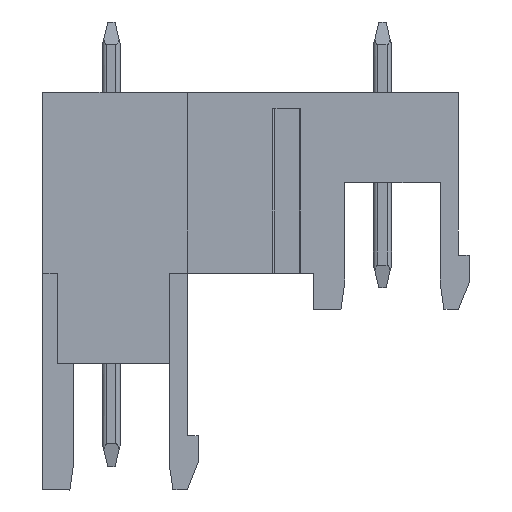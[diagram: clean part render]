
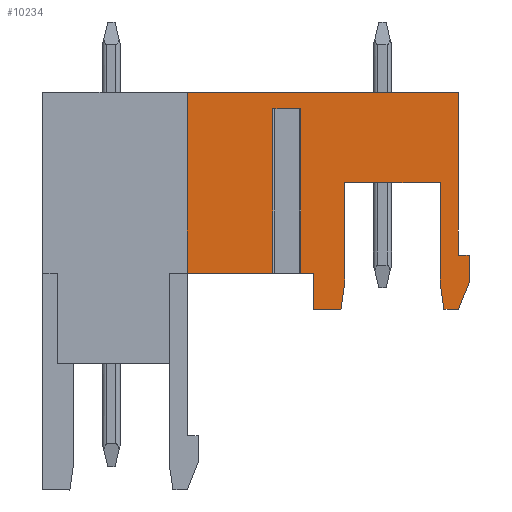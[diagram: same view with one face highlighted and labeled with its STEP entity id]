
A CAD part, front view. The second image highlights one B-rep face of the part: STEP entity #10234.
In plain terms, the highlighted planar face has unit normal (0, -1, 0).
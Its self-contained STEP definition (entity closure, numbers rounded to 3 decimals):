
#137=DIRECTION('',(1.,0.,0.));
#138=VECTOR('',#137,4.736);
#139=CARTESIAN_POINT('',(8.,5.,-10.));
#140=LINE('',#139,#138);
#179=DIRECTION('',(1.,0.,0.));
#180=VECTOR('',#179,0.736);
#181=CARTESIAN_POINT('',(14.264,5.,-10.));
#182=LINE('',#181,#180);
#971=DIRECTION('',(-1.,0.,0.));
#972=VECTOR('',#971,15.);
#973=CARTESIAN_POINT('',(23.,5.,0.));
#974=LINE('',#973,#972);
#2027=DIRECTION('',(0.,0.,-1.));
#2028=VECTOR('',#2027,2.);
#2029=CARTESIAN_POINT('',(15.,5.,-10.));
#2030=LINE('',#2029,#2028);
#2320=DIRECTION('',(1.,0.,0.));
#2321=VECTOR('',#2320,1.5);
#2322=CARTESIAN_POINT('',(15.,5.,-12.));
#2323=LINE('',#2322,#2321);
#2347=DIRECTION('',(-1.,0.,0.));
#2348=VECTOR('',#2347,5.3);
#2349=CARTESIAN_POINT('',(22.,5.,-5.));
#2350=LINE('',#2349,#2348);
#2351=DIRECTION('',(0.,0.,-1.));
#2352=VECTOR('',#2351,5.6);
#2353=CARTESIAN_POINT('',(16.7,5.,-5.));
#2354=LINE('',#2353,#2352);
#2355=DIRECTION('',(-0.141,0.,-0.99));
#2356=VECTOR('',#2355,1.414);
#2357=CARTESIAN_POINT('',(16.7,5.,-10.6));
#2358=LINE('',#2357,#2356);
#2359=DIRECTION('',(-1.,0.,0.));
#2360=VECTOR('',#2359,1.527);
#2361=CARTESIAN_POINT('',(14.264,5.,-0.9));
#2362=LINE('',#2361,#2360);
#2363=DIRECTION('',(-0.371,0.,-0.928));
#2364=VECTOR('',#2363,1.616);
#2365=CARTESIAN_POINT('',(23.6,5.,-10.5));
#2366=LINE('',#2365,#2364);
#2367=DIRECTION('',(-0.141,0.,0.99));
#2368=VECTOR('',#2367,1.414);
#2369=CARTESIAN_POINT('',(22.2,5.,-12.));
#2370=LINE('',#2369,#2368);
#2375=DIRECTION('',(0.,0.,-1.));
#2376=VECTOR('',#2375,5.6);
#2377=CARTESIAN_POINT('',(22.,5.,-5.));
#2378=LINE('',#2377,#2376);
#2435=DIRECTION('',(1.,0.,0.));
#2436=VECTOR('',#2435,0.8);
#2437=CARTESIAN_POINT('',(22.2,5.,-12.));
#2438=LINE('',#2437,#2436);
#2467=DIRECTION('',(0.,0.,1.));
#2468=VECTOR('',#2467,1.5);
#2469=CARTESIAN_POINT('',(23.6,5.,-10.5));
#2470=LINE('',#2469,#2468);
#2483=DIRECTION('',(-1.,0.,0.));
#2484=VECTOR('',#2483,0.6);
#2485=CARTESIAN_POINT('',(23.6,5.,-9.));
#2486=LINE('',#2485,#2484);
#2491=DIRECTION('',(0.,0.,1.));
#2492=VECTOR('',#2491,9.);
#2493=CARTESIAN_POINT('',(23.,5.,-9.));
#2494=LINE('',#2493,#2492);
#2721=DIRECTION('',(0.,0.,-1.));
#2722=VECTOR('',#2721,9.1);
#2723=CARTESIAN_POINT('',(14.264,5.,-0.9));
#2724=LINE('',#2723,#2722);
#2749=DIRECTION('',(0.,0.,1.));
#2750=VECTOR('',#2749,9.1);
#2751=CARTESIAN_POINT('',(12.736,5.,-10.));
#2752=LINE('',#2751,#2750);
#2799=DIRECTION('',(0.,0.,-1.));
#2800=VECTOR('',#2799,10.);
#2801=CARTESIAN_POINT('',(8.,5.,0.));
#2802=LINE('',#2801,#2800);
#5507=CARTESIAN_POINT('',(12.736,5.,-10.));
#5509=VERTEX_POINT('',#5507);
#5525=CARTESIAN_POINT('',(14.264,5.,-10.));
#5526=VERTEX_POINT('',#5525);
#5527=CARTESIAN_POINT('',(15.,5.,-10.));
#5528=VERTEX_POINT('',#5527);
#5540=CARTESIAN_POINT('',(8.,5.,-10.));
#5542=VERTEX_POINT('',#5540);
#5545=CARTESIAN_POINT('',(12.736,5.,-0.9));
#5546=VERTEX_POINT('',#5545);
#5549=CARTESIAN_POINT('',(14.264,5.,-0.9));
#5550=VERTEX_POINT('',#5549);
#5563=CARTESIAN_POINT('',(8.,5.,0.));
#5564=VERTEX_POINT('',#5563);
#5565=CARTESIAN_POINT('',(23.,5.,0.));
#5566=VERTEX_POINT('',#5565);
#5567=CARTESIAN_POINT('',(23.,5.,-9.));
#5568=VERTEX_POINT('',#5567);
#5569=CARTESIAN_POINT('',(23.6,5.,-9.));
#5570=VERTEX_POINT('',#5569);
#5571=CARTESIAN_POINT('',(23.6,5.,-10.5));
#5572=VERTEX_POINT('',#5571);
#5573=CARTESIAN_POINT('',(23.,5.,-12.));
#5574=VERTEX_POINT('',#5573);
#5575=CARTESIAN_POINT('',(22.2,5.,-12.));
#5576=VERTEX_POINT('',#5575);
#5577=CARTESIAN_POINT('',(22.,5.,-10.6));
#5578=VERTEX_POINT('',#5577);
#5579=CARTESIAN_POINT('',(16.7,5.,-10.6));
#5580=CARTESIAN_POINT('',(16.5,5.,-12.));
#5581=VERTEX_POINT('',#5579);
#5582=VERTEX_POINT('',#5580);
#5583=CARTESIAN_POINT('',(15.,5.,-12.));
#5584=VERTEX_POINT('',#5583);
#6766=CARTESIAN_POINT('',(22.,5.,-5.));
#6768=VERTEX_POINT('',#6766);
#6777=CARTESIAN_POINT('',(16.7,5.,-5.));
#6778=VERTEX_POINT('',#6777);
#10195=CARTESIAN_POINT('',(0.,5.,0.));
#10196=DIRECTION('',(0.,1.,0.));
#10197=DIRECTION('',(1.,0.,0.));
#10198=AXIS2_PLACEMENT_3D('',#10195,#10196,#10197);
#10199=PLANE('',#10198);
#10201=ORIENTED_EDGE('',*,*,#10200,.F.);
#10202=ORIENTED_EDGE('',*,*,#10063,.T.);
#10204=ORIENTED_EDGE('',*,*,#10203,.T.);
#10206=ORIENTED_EDGE('',*,*,#10205,.T.);
#10207=ORIENTED_EDGE('',*,*,#10167,.F.);
#10208=ORIENTED_EDGE('',*,*,#9859,.F.);
#10209=ORIENTED_EDGE('',*,*,#7431,.F.);
#10211=ORIENTED_EDGE('',*,*,#10210,.F.);
#10213=ORIENTED_EDGE('',*,*,#10212,.T.);
#10215=ORIENTED_EDGE('',*,*,#10214,.F.);
#10216=ORIENTED_EDGE('',*,*,#7411,.F.);
#10218=ORIENTED_EDGE('',*,*,#10217,.F.);
#10219=ORIENTED_EDGE('',*,*,#8456,.F.);
#10221=ORIENTED_EDGE('',*,*,#10220,.F.);
#10223=ORIENTED_EDGE('',*,*,#10222,.F.);
#10225=ORIENTED_EDGE('',*,*,#10224,.F.);
#10227=ORIENTED_EDGE('',*,*,#10226,.T.);
#10229=ORIENTED_EDGE('',*,*,#10228,.F.);
#10231=ORIENTED_EDGE('',*,*,#10230,.T.);
#10232=EDGE_LOOP('',(#10201,#10202,#10204,#10206,#10207,#10208,#10209,#10211,
#10213,#10215,#10216,#10218,#10219,#10221,#10223,#10225,#10227,#10229,#10231));
#10233=FACE_OUTER_BOUND('',#10232,.F.);
#10234=ADVANCED_FACE('',(#10233),#10199,.F.);
#7411=EDGE_CURVE('',#5542,#5509,#140,.T.);
#7431=EDGE_CURVE('',#5526,#5528,#182,.T.);
#8456=EDGE_CURVE('',#5566,#5564,#974,.T.);
#9859=EDGE_CURVE('',#5528,#5584,#2030,.T.);
#10063=EDGE_CURVE('',#6768,#6778,#2350,.T.);
#10167=EDGE_CURVE('',#5584,#5582,#2323,.T.);
#10200=EDGE_CURVE('',#6768,#5578,#2378,.T.);
#10203=EDGE_CURVE('',#6778,#5581,#2354,.T.);
#10205=EDGE_CURVE('',#5581,#5582,#2358,.T.);
#10210=EDGE_CURVE('',#5550,#5526,#2724,.T.);
#10212=EDGE_CURVE('',#5550,#5546,#2362,.T.);
#10214=EDGE_CURVE('',#5509,#5546,#2752,.T.);
#10217=EDGE_CURVE('',#5564,#5542,#2802,.T.);
#10220=EDGE_CURVE('',#5568,#5566,#2494,.T.);
#10222=EDGE_CURVE('',#5570,#5568,#2486,.T.);
#10224=EDGE_CURVE('',#5572,#5570,#2470,.T.);
#10226=EDGE_CURVE('',#5572,#5574,#2366,.T.);
#10228=EDGE_CURVE('',#5576,#5574,#2438,.T.);
#10230=EDGE_CURVE('',#5576,#5578,#2370,.T.);
